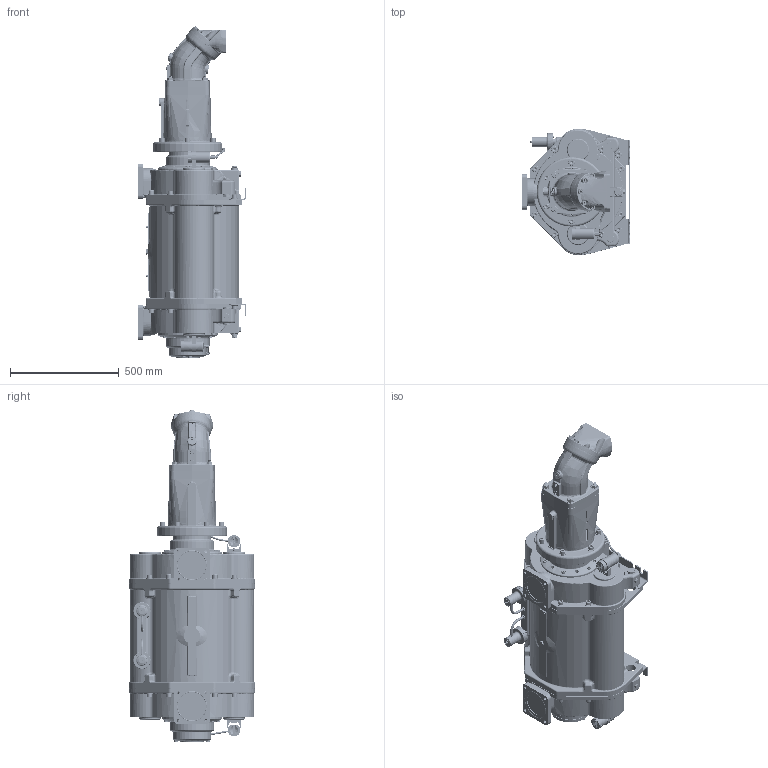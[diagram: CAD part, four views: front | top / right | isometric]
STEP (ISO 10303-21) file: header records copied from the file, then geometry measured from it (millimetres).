
FILE_DESCRIPTION(/* description */ (''),/* implementation_level */ '2;1');
FILE_NAME(/* name */ '1700153B.stp',/* time_stamp */ '2025-09-24T13:40:02+02:00',/* author */ ('JJ'),/* organization */ (''),/* preprocessor_version */ 'ST-DEVELOPER v20',/* originating_system */ 'Autodesk Inventor 2025',/* authorisation */ '');
FILE_SCHEMA (('AUTOMOTIVE_DESIGN { 1 0 10303 214 3 1 1 }'));
Products named in the file (30): 1700153; 1700032 Ready for adaptor; 1700153_Part4; 1700153_Part2; 1615105; 944000089; 932400154; 932400160; 910100148; 910300480; 922200266; 932400156; 1620316; 1634826; 1634811; 922000266; 910300509; 910100161; 910100197; 915000050; 915000232; 915000225; 915000225-part1; 915000225-part2; 944600240; 910100191; 910300221; 944600173; 944600239; 915000217-TM5 adapter
Assembly tree (52 placements, depth 3):
  1700153
    1700032 Ready for adaptor
    1700153_Part4
    1700153_Part2
    1615105
    944000089
    932400154
    932400160
    910100148  x10
    910300480  x6
    922200266
    932400156
    1620316
    1634826
      1634811
      922000266
    910300509  x4
    910100161  x4
    910100197  x4
    915000050
    915000232
    915000225
      915000225-part1
      915000225-part2
    944600240
    910100191
    910300221
    944600173
    944600239
    915000217-TM5 adapter
Bounding box: 499.1 x 579 x 1525.57 mm (x, y, z)
Volume: 145052825.9 mm3; surface area: 4892809.2 mm2
Topology: 54 solids, 54 shells, 7368 faces, 18354 edges, 11383 vertices
Faces by surface type: plane 2592, cylinder 1779, bspline 1642, cone 638, torus 631, sphere 86
Full cylindrical faces by diameter (mm): 1.5 x16, 3 x2, 3.2 x4, 3.3 x4, 3.5 x2, 4 x6, 4.134 x4, 4.92 x8, 5 x2, 5.3 x2, 6 x14, 6.1 x2, 6.4 x2, 6.647 x1, 8 x15, 8.5 x3, 8.57 x2, 8.92 x1, 9.2 x2, 9.7 x2, 9.8 x4, 10 x17, 10.106 x18, 10.11 x1, 11 x11, 11.445 x1, 12 x13, 13 x18, 13.5 x4, 13.835 x24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
Entity records: 396619 total; most frequent: CARTESIAN_POINT 232295, ORIENTED_EDGE 34666, DIRECTION 30088, EDGE_CURVE 17333, AXIS2_PLACEMENT_3D 11478, VERTEX_POINT 10825, EDGE_LOOP 7762, LINE 7132
